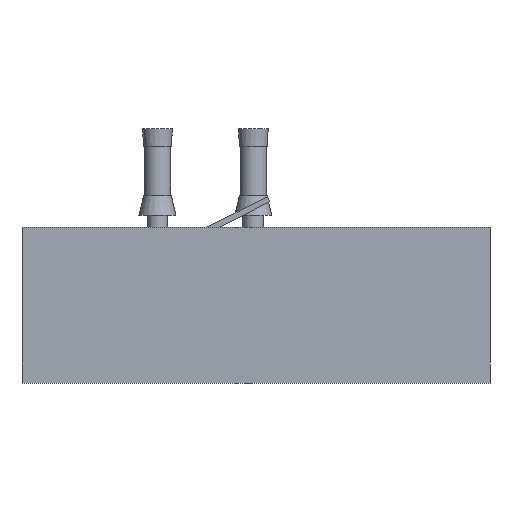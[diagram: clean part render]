
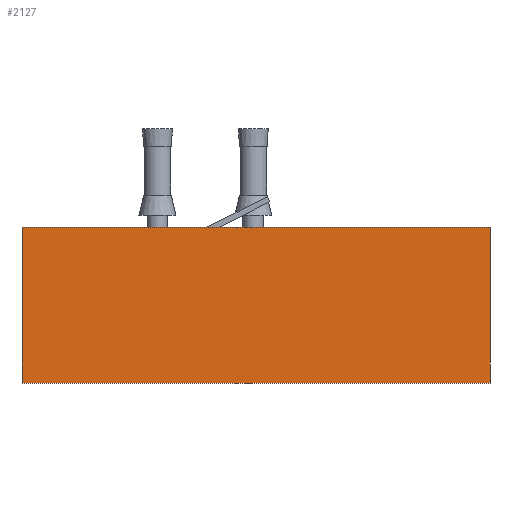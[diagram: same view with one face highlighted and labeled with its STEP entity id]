
A CAD part, front view. The second image highlights one B-rep face of the part: STEP entity #2127.
In plain terms, the highlighted planar face has unit normal (0, -1, 0).
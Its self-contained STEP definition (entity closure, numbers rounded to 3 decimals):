
#28 = CARTESIAN_POINT ( 'NONE',  ( 613.861, -2., 60. ) ) ;
#55 = DIRECTION ( 'NONE',  ( 0., 0., 1. ) ) ;
#197 = CARTESIAN_POINT ( 'NONE',  ( -197.981, -2., 60. ) ) ;
#207 = ORIENTED_EDGE ( 'NONE', *, *, #2130, .T. ) ;
#272 = PLANE ( 'NONE',  #1131 ) ;
#393 = DIRECTION ( 'NONE',  ( 1., 0., 0. ) ) ;
#399 = CARTESIAN_POINT ( 'NONE',  ( 613.861, -2., 330. ) ) ;
#604 = VECTOR ( 'NONE', #1129, 1000. ) ;
#643 = EDGE_CURVE ( 'NONE', #1106, #1145, #2517, .T. ) ;
#717 = CARTESIAN_POINT ( 'NONE',  ( 0., -2., 0. ) ) ;
#754 = EDGE_LOOP ( 'NONE', ( #2022, #853, #1560, #207 ) ) ;
#853 = ORIENTED_EDGE ( 'NONE', *, *, #643, .F. ) ;
#926 = EDGE_CURVE ( 'NONE', #1106, #1330, #1975, .T. ) ;
#1023 = CARTESIAN_POINT ( 'NONE',  ( -197.981, -2., 60. ) ) ;
#1106 = VERTEX_POINT ( 'NONE', #197 ) ;
#1129 = DIRECTION ( 'NONE',  ( 0., 0., 1. ) ) ;
#1131 = AXIS2_PLACEMENT_3D ( 'NONE', #717, #1623, #1173 ) ;
#1145 = VERTEX_POINT ( 'NONE', #1571 ) ;
#1173 = DIRECTION ( 'NONE',  ( 0., 0., -1. ) ) ;
#1192 = LINE ( 'NONE', #2606, #2832 ) ;
#1330 = VERTEX_POINT ( 'NONE', #2527 ) ;
#1560 = ORIENTED_EDGE ( 'NONE', *, *, #926, .T. ) ;
#1571 = CARTESIAN_POINT ( 'NONE',  ( -197.981, -2., 330. ) ) ;
#1623 = DIRECTION ( 'NONE',  ( 0., -1., 0. ) ) ;
#1701 = VECTOR ( 'NONE', #393, 1000. ) ;
#1816 = CARTESIAN_POINT ( 'NONE',  ( -197.981, -2., 60. ) ) ;
#1930 = DIRECTION ( 'NONE',  ( 1., 0., 0. ) ) ;
#1964 = VERTEX_POINT ( 'NONE', #399 ) ;
#1975 = LINE ( 'NONE', #1023, #1701 ) ;
#2022 = ORIENTED_EDGE ( 'NONE', *, *, #2254, .F. ) ;
#2126 = VECTOR ( 'NONE', #55, 1000. ) ;
#2127 = ADVANCED_FACE ( 'NONE', ( #2301 ), #272, .T. ) ;
#2130 = EDGE_CURVE ( 'NONE', #1330, #1964, #2518, .T. ) ;
#2254 = EDGE_CURVE ( 'NONE', #1145, #1964, #1192, .T. ) ;
#2301 = FACE_OUTER_BOUND ( 'NONE', #754, .T. ) ;
#2517 = LINE ( 'NONE', #1816, #604 ) ;
#2518 = LINE ( 'NONE', #28, #2126 ) ;
#2527 = CARTESIAN_POINT ( 'NONE',  ( 613.861, -2., 60. ) ) ;
#2606 = CARTESIAN_POINT ( 'NONE',  ( -197.981, -2., 330. ) ) ;
#2832 = VECTOR ( 'NONE', #1930, 1000. ) ;
